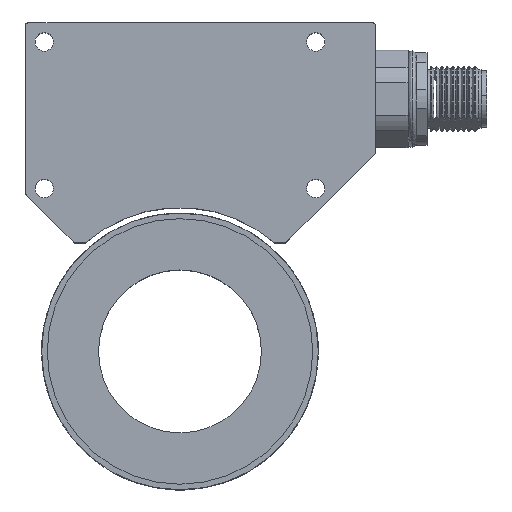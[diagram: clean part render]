
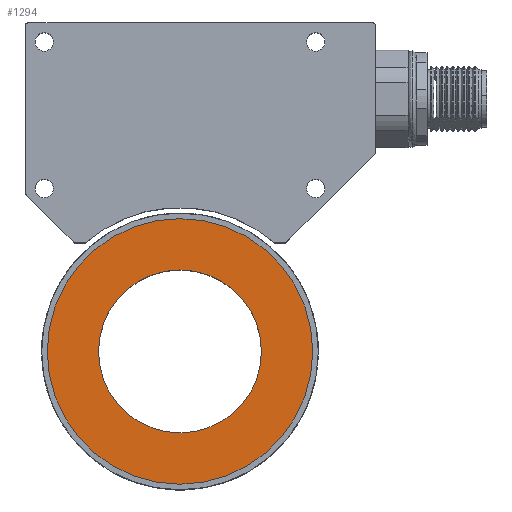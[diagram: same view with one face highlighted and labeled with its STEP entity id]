
A CAD part, top view. The second image highlights one B-rep face of the part: STEP entity #1294.
In plain terms, the highlighted planar face has unit normal (0, 0, 1).
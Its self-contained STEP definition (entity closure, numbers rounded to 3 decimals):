
#33 = VERTEX_POINT ( 'NONE', #9966 ) ;
#820 = AXIS2_PLACEMENT_3D ( 'NONE', #11785, #10193, #8857 ) ;
#909 = AXIS2_PLACEMENT_3D ( 'NONE', #5369, #11847, #6285 ) ;
#1114 = EDGE_LOOP ( 'NONE', ( #6854, #7432 ) ) ;
#1294 = ADVANCED_FACE ( 'NONE', ( #4278, #11431 ), #11002, .F. ) ;
#1836 = EDGE_CURVE ( 'NONE', #4752, #5000, #6189, .T. ) ;
#2352 = AXIS2_PLACEMENT_3D ( 'NONE', #4588, #11039, #5512 ) ;
#2491 = DIRECTION ( 'NONE',  ( 1., 0., 0. ) ) ;
#3126 = ORIENTED_EDGE ( 'NONE', *, *, #9888, .T. ) ;
#4278 = FACE_BOUND ( 'NONE', #1114, .T. ) ;
#4588 = CARTESIAN_POINT ( 'NONE',  ( 24.743, -24.743, 0. ) ) ;
#4752 = VERTEX_POINT ( 'NONE', #6638 ) ;
#5000 = VERTEX_POINT ( 'NONE', #6031 ) ;
#5041 = CARTESIAN_POINT ( 'NONE',  ( 0., 0., 0. ) ) ;
#5161 = CIRCLE ( 'NONE', #909, 24.45 ) ;
#5369 = CARTESIAN_POINT ( 'NONE',  ( 0., 0., 0. ) ) ;
#5512 = DIRECTION ( 'NONE',  ( -1., 0., 0. ) ) ;
#5957 = DIRECTION ( 'NONE',  ( 1., 0., 0. ) ) ;
#6026 = AXIS2_PLACEMENT_3D ( 'NONE', #5041, #11489, #5957 ) ;
#6031 = CARTESIAN_POINT ( 'NONE',  ( -15., 0., 0. ) ) ;
#6189 = CIRCLE ( 'NONE', #11641, 15. ) ;
#6285 = DIRECTION ( 'NONE',  ( 0., -1., 0. ) ) ;
#6638 = CARTESIAN_POINT ( 'NONE',  ( 15., 0., 0. ) ) ;
#6854 = ORIENTED_EDGE ( 'NONE', *, *, #1836, .F. ) ;
#7201 = CIRCLE ( 'NONE', #6026, 15. ) ;
#7432 = ORIENTED_EDGE ( 'NONE', *, *, #10239, .F. ) ;
#7989 = CARTESIAN_POINT ( 'NONE',  ( 0., 0., 0. ) ) ;
#8857 = DIRECTION ( 'NONE',  ( 0., -1., 0. ) ) ;
#8999 = CIRCLE ( 'NONE', #820, 24.45 ) ;
#9058 = EDGE_CURVE ( 'NONE', #9804, #33, #8999, .T. ) ;
#9804 = VERTEX_POINT ( 'NONE', #10714 ) ;
#9888 = EDGE_CURVE ( 'NONE', #33, #9804, #5161, .T. ) ;
#9966 = CARTESIAN_POINT ( 'NONE',  ( 0., 24.45, 0. ) ) ;
#10054 = EDGE_LOOP ( 'NONE', ( #10710, #3126 ) ) ;
#10193 = DIRECTION ( 'NONE',  ( 0., 0., 1. ) ) ;
#10239 = EDGE_CURVE ( 'NONE', #5000, #4752, #7201, .T. ) ;
#10710 = ORIENTED_EDGE ( 'NONE', *, *, #9058, .T. ) ;
#10714 = CARTESIAN_POINT ( 'NONE',  ( 0., -24.45, 0. ) ) ;
#11002 = PLANE ( 'NONE',  #2352 ) ;
#11039 = DIRECTION ( 'NONE',  ( 0., 0., -1. ) ) ;
#11431 = FACE_OUTER_BOUND ( 'NONE', #10054, .T. ) ;
#11489 = DIRECTION ( 'NONE',  ( 0., 0., 1. ) ) ;
#11641 = AXIS2_PLACEMENT_3D ( 'NONE', #7989, #11650, #2491 ) ;
#11650 = DIRECTION ( 'NONE',  ( 0., 0., 1. ) ) ;
#11785 = CARTESIAN_POINT ( 'NONE',  ( 0., 0., 0. ) ) ;
#11847 = DIRECTION ( 'NONE',  ( 0., 0., 1. ) ) ;
